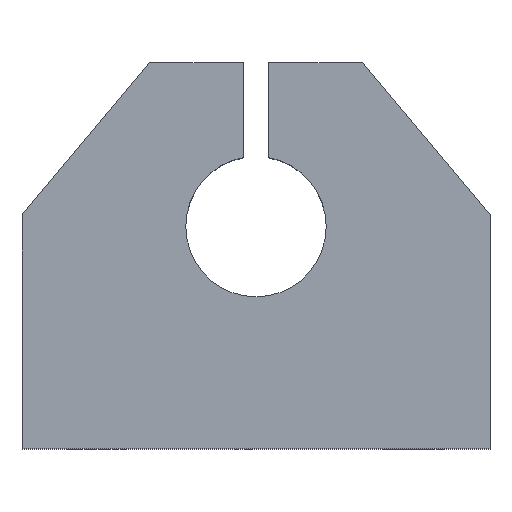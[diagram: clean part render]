
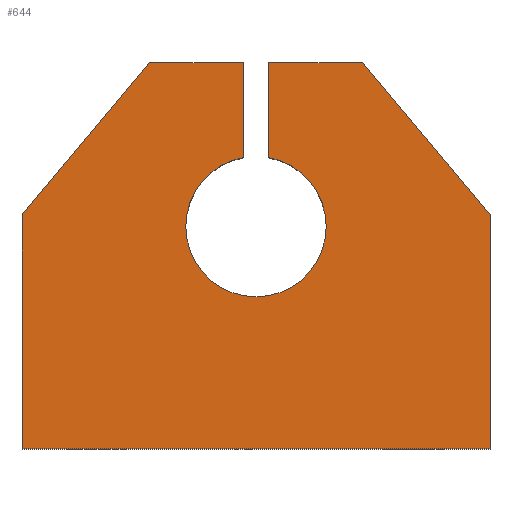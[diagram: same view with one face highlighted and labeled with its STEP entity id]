
A CAD part, top view. The second image highlights one B-rep face of the part: STEP entity #644.
In plain terms, the highlighted planar face has unit normal (0, 0, 1).
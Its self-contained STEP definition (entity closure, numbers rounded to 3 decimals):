
#14 = DIRECTION ( 'NONE',  ( 0., 0., 1. ) ) ;
#16 = VECTOR ( 'NONE', #934, 1000. ) ;
#40 = CARTESIAN_POINT ( 'NONE',  ( -20., 16.5, 10. ) ) ;
#51 = LINE ( 'NONE', #845, #848 ) ;
#54 = VECTOR ( 'NONE', #1081, 1000. ) ;
#55 = EDGE_CURVE ( 'NONE', #479, #402, #711, .T. ) ;
#83 = CARTESIAN_POINT ( 'NONE',  ( -1.075, 16.5, 10. ) ) ;
#110 = EDGE_CURVE ( 'NONE', #770, #859, #1021, .T. ) ;
#149 = EDGE_CURVE ( 'NONE', #932, #863, #1215, .T. ) ;
#153 = DIRECTION ( 'NONE',  ( 1., 0., 0. ) ) ;
#162 = AXIS2_PLACEMENT_3D ( 'NONE', #309, #14, #614 ) ;
#176 = DIRECTION ( 'NONE',  ( 1., 0., 0. ) ) ;
#186 = VECTOR ( 'NONE', #384, 1000. ) ;
#208 = CARTESIAN_POINT ( 'NONE',  ( -20., -16.5, 10. ) ) ;
#225 = AXIS2_PLACEMENT_3D ( 'NONE', #1195, #908, #784 ) ;
#226 = ORIENTED_EDGE ( 'NONE', *, *, #149, .T. ) ;
#267 = EDGE_CURVE ( 'NONE', #402, #1083, #665, .T. ) ;
#293 = CARTESIAN_POINT ( 'NONE',  ( -6., 2.5, 10. ) ) ;
#309 = CARTESIAN_POINT ( 'NONE',  ( 0., 2.5, 10. ) ) ;
#325 = ORIENTED_EDGE ( 'NONE', *, *, #1236, .T. ) ;
#331 = CARTESIAN_POINT ( 'NONE',  ( -20., 16.5, 10. ) ) ;
#346 = EDGE_CURVE ( 'NONE', #932, #1157, #397, .T. ) ;
#355 = EDGE_CURVE ( 'NONE', #1083, #770, #590, .T. ) ;
#360 = ORIENTED_EDGE ( 'NONE', *, *, #55, .T. ) ;
#363 = VECTOR ( 'NONE', #1266, 1000. ) ;
#384 = DIRECTION ( 'NONE',  ( -1., 0., 0. ) ) ;
#397 = LINE ( 'NONE', #83, #363 ) ;
#400 = CARTESIAN_POINT ( 'NONE',  ( -1.075, 8.403, 10. ) ) ;
#402 = VERTEX_POINT ( 'NONE', #208 ) ;
#405 = ORIENTED_EDGE ( 'NONE', *, *, #653, .T. ) ;
#450 = VERTEX_POINT ( 'NONE', #1198 ) ;
#462 = DIRECTION ( 'NONE',  ( 0., 0., 1. ) ) ;
#464 = EDGE_CURVE ( 'NONE', #1157, #976, #826, .T. ) ;
#476 = CIRCLE ( 'NONE', #940, 6. ) ;
#479 = VERTEX_POINT ( 'NONE', #810 ) ;
#483 = DIRECTION ( 'NONE',  ( 0., 1., 0. ) ) ;
#488 = LINE ( 'NONE', #572, #186 ) ;
#501 = VECTOR ( 'NONE', #1227, 1000. ) ;
#522 = VERTEX_POINT ( 'NONE', #530 ) ;
#530 = CARTESIAN_POINT ( 'NONE',  ( 1.075, 8.403, 10. ) ) ;
#572 = CARTESIAN_POINT ( 'NONE',  ( -20., 16.5, 10. ) ) ;
#590 = LINE ( 'NONE', #1180, #1086 ) ;
#614 = DIRECTION ( 'NONE',  ( 1., 0., 0. ) ) ;
#638 = FACE_OUTER_BOUND ( 'NONE', #1049, .T. ) ;
#644 = ADVANCED_FACE ( 'NONE', ( #638 ), #1229, .T. ) ;
#646 = CARTESIAN_POINT ( 'NONE',  ( 0., 2.5, 10. ) ) ;
#653 = EDGE_CURVE ( 'NONE', #450, #522, #51, .T. ) ;
#654 = CARTESIAN_POINT ( 'NONE',  ( 9.092, 16.5, 10. ) ) ;
#657 = ORIENTED_EDGE ( 'NONE', *, *, #346, .F. ) ;
#665 = LINE ( 'NONE', #852, #501 ) ;
#672 = EDGE_CURVE ( 'NONE', #859, #450, #488, .T. ) ;
#677 = VECTOR ( 'NONE', #716, 1000. ) ;
#687 = ORIENTED_EDGE ( 'NONE', *, *, #1079, .F. ) ;
#688 = ORIENTED_EDGE ( 'NONE', *, *, #1246, .F. ) ;
#699 = ORIENTED_EDGE ( 'NONE', *, *, #267, .T. ) ;
#711 = LINE ( 'NONE', #40, #16 ) ;
#716 = DIRECTION ( 'NONE',  ( -1., 0., 0. ) ) ;
#741 = DIRECTION ( 'NONE',  ( 0., -1., 0. ) ) ;
#756 = AXIS2_PLACEMENT_3D ( 'NONE', #858, #1043, #153 ) ;
#770 = VERTEX_POINT ( 'NONE', #918 ) ;
#779 = CIRCLE ( 'NONE', #225, 6. ) ;
#784 = DIRECTION ( 'NONE',  ( 1., 0., 0. ) ) ;
#810 = CARTESIAN_POINT ( 'NONE',  ( -20., 3.5, 10. ) ) ;
#815 = DIRECTION ( 'NONE',  ( -0.643, 0.766, 0. ) ) ;
#826 = CIRCLE ( 'NONE', #162, 6. ) ;
#838 = ORIENTED_EDGE ( 'NONE', *, *, #355, .T. ) ;
#845 = CARTESIAN_POINT ( 'NONE',  ( 1.075, 16.5, 10. ) ) ;
#846 = VERTEX_POINT ( 'NONE', #1237 ) ;
#848 = VECTOR ( 'NONE', #741, 1000. ) ;
#849 = CARTESIAN_POINT ( 'NONE',  ( -9.092, 16.5, 10. ) ) ;
#852 = CARTESIAN_POINT ( 'NONE',  ( -20., -16.5, 10. ) ) ;
#858 = CARTESIAN_POINT ( 'NONE',  ( 0., 0., 10. ) ) ;
#859 = VERTEX_POINT ( 'NONE', #654 ) ;
#863 = VERTEX_POINT ( 'NONE', #849 ) ;
#908 = DIRECTION ( 'NONE',  ( 0., 0., 1. ) ) ;
#911 = ORIENTED_EDGE ( 'NONE', *, *, #464, .F. ) ;
#918 = CARTESIAN_POINT ( 'NONE',  ( 20., 3.5, 10. ) ) ;
#932 = VERTEX_POINT ( 'NONE', #1268 ) ;
#934 = DIRECTION ( 'NONE',  ( 0., -1., 0. ) ) ;
#940 = AXIS2_PLACEMENT_3D ( 'NONE', #646, #462, #176 ) ;
#961 = ORIENTED_EDGE ( 'NONE', *, *, #110, .T. ) ;
#969 = CARTESIAN_POINT ( 'NONE',  ( 20., -16.5, 10. ) ) ;
#976 = VERTEX_POINT ( 'NONE', #293 ) ;
#1021 = LINE ( 'NONE', #1027, #1105 ) ;
#1027 = CARTESIAN_POINT ( 'NONE',  ( 13.46, 11.294, 10. ) ) ;
#1043 = DIRECTION ( 'NONE',  ( 0., 0., 1. ) ) ;
#1049 = EDGE_LOOP ( 'NONE', ( #1166, #405, #688, #687, #911, #657, #226, #325, #360, #699, #838, #961 ) ) ;
#1079 = EDGE_CURVE ( 'NONE', #976, #846, #476, .T. ) ;
#1081 = DIRECTION ( 'NONE',  ( -0.643, -0.766, 0. ) ) ;
#1083 = VERTEX_POINT ( 'NONE', #969 ) ;
#1086 = VECTOR ( 'NONE', #483, 1000. ) ;
#1094 = LINE ( 'NONE', #1177, #54 ) ;
#1105 = VECTOR ( 'NONE', #815, 1000. ) ;
#1157 = VERTEX_POINT ( 'NONE', #400 ) ;
#1166 = ORIENTED_EDGE ( 'NONE', *, *, #672, .T. ) ;
#1177 = CARTESIAN_POINT ( 'NONE',  ( -13.46, 11.294, 10. ) ) ;
#1180 = CARTESIAN_POINT ( 'NONE',  ( 20., 16.5, 10. ) ) ;
#1195 = CARTESIAN_POINT ( 'NONE',  ( 0., 2.5, 10. ) ) ;
#1198 = CARTESIAN_POINT ( 'NONE',  ( 1.075, 16.5, 10. ) ) ;
#1215 = LINE ( 'NONE', #331, #677 ) ;
#1227 = DIRECTION ( 'NONE',  ( 1., 0., 0. ) ) ;
#1229 = PLANE ( 'NONE',  #756 ) ;
#1236 = EDGE_CURVE ( 'NONE', #863, #479, #1094, .T. ) ;
#1237 = CARTESIAN_POINT ( 'NONE',  ( 6., 2.5, 10. ) ) ;
#1246 = EDGE_CURVE ( 'NONE', #846, #522, #779, .T. ) ;
#1266 = DIRECTION ( 'NONE',  ( 0., -1., 0. ) ) ;
#1268 = CARTESIAN_POINT ( 'NONE',  ( -1.075, 16.5, 10. ) ) ;
